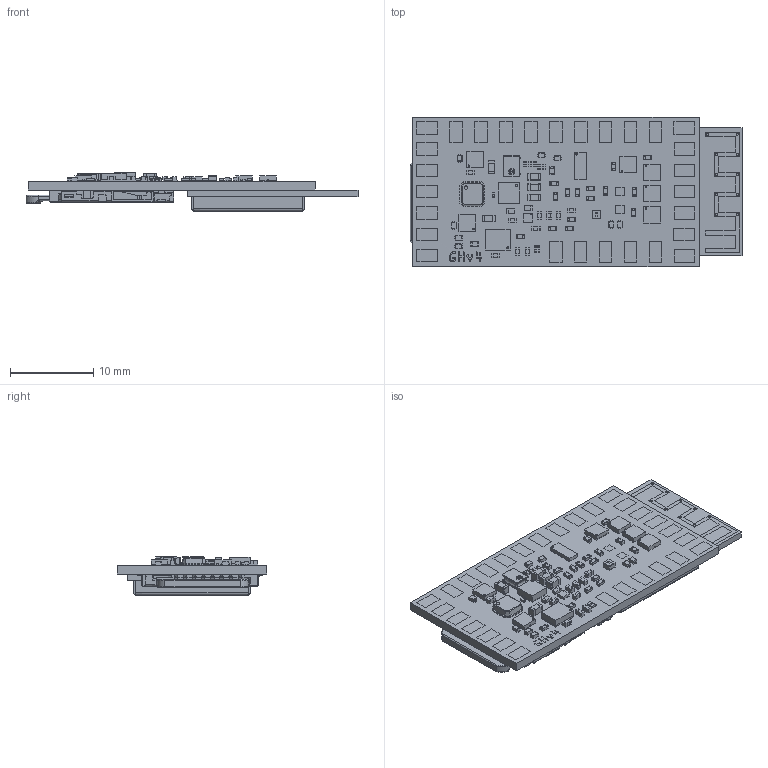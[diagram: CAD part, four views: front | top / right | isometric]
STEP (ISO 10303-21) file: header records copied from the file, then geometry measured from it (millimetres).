
FILE_DESCRIPTION(/* description */ (''),/* implementation_level */ '2;1');
FILE_NAME(/* name */ 'GHv4_wMicroSD.step',/* time_stamp */ '2024-10-15T14:31:19-07:00',/* author */ (''),/* organization */ (''),/* preprocessor_version */ 'ST-DEVELOPER v20',/* originating_system */ 'Autodesk Translation Framework v13.20.0.188',/* authorisation */ '');
FILE_SCHEMA (('AUTOMOTIVE_DESIGN { 1 0 10303 214 3 1 1 }'));
Products named in the file (2): GHv4; micro sd card
Assembly tree (1 placements, depth 2):
  GHv4
    micro sd card
Bounding box: 39.95 x 17.95 x 4.62 mm (x, y, z)
Volume: 1247.4 mm3; surface area: 4429 mm2
Topology: 433 solids, 433 shells, 6325 faces, 15132 edges, 9729 vertices
Faces by surface type: plane 4817, cylinder 1016, sphere 234, bspline 231, torus 26, cone 1
Full cylindrical faces by diameter (mm): 0.05 x58, 0.085 x2, 0.15 x12, 0.2 x2, 0.25 x44, 0.35 x1, 0.4 x2, 0.5 x2, 0.8 x2
Entity records: 183425 total; most frequent: CARTESIAN_POINT 36469, ORIENTED_EDGE 30016, DIRECTION 28788, EDGE_CURVE 15008, LINE 12470, VECTOR 12470, VERTEX_POINT 9729, AXIS2_PLACEMENT_3D 8159
